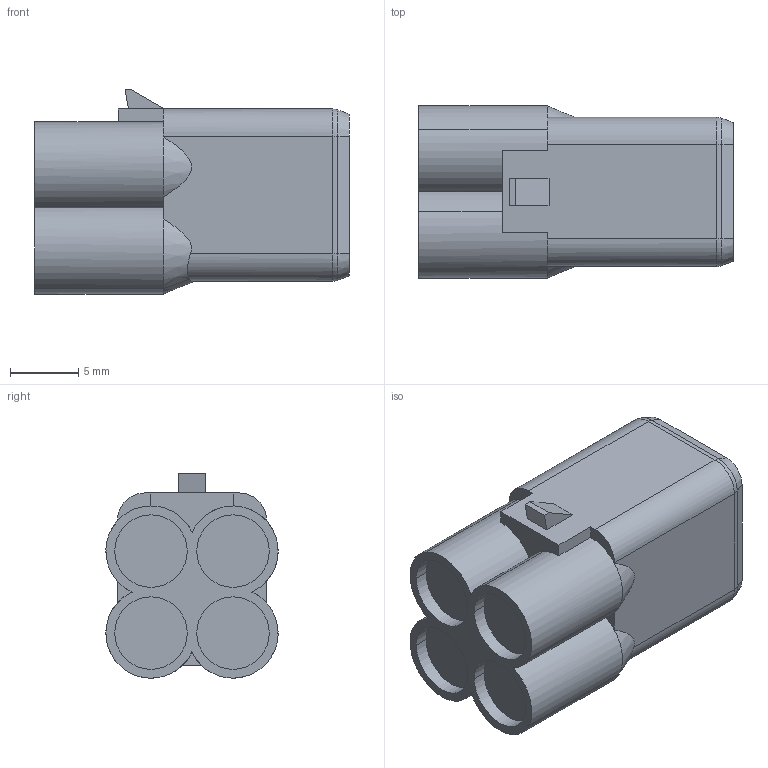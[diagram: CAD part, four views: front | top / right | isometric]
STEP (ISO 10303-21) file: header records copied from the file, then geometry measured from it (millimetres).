
FILE_DESCRIPTION(('CATIA V5 STEP Exchange','CAx-IF Rec.Pracs.--- Model Styling and Organization---1.2---2011-12-15'),'2;1');
FILE_NAME('N:\C-DAM_MyDesk\ENV\900093\6180-4181.stp','2015-01-26T23:44:39+00:00',('none'),('none'),'CATIA Version 5-6 Release 2012 SP4 HF74','CATIA V5 STEP AP214','none');
FILE_SCHEMA(('AUTOMOTIVE_DESIGN { 1 0 10303 214 1 1 1 1 }'));
Length unit declared in the file: millimetre
Products named in the file (1): 6180-4181
Bounding box: 23 x 12.6 x 14.95 mm (x, y, z)
Volume: 2921.1 mm3; surface area: 1633 mm2
Topology: 1 solids, 1 shells, 92 faces, 214 edges, 134 vertices
Faces by surface type: plane 52, cylinder 26, cone 10, torus 4
Entity records: 2505 total; most frequent: CARTESIAN_POINT 523, ORIENTED_EDGE 428, DIRECTION 334, EDGE_CURVE 214, VECTOR 136, LINE 136, VERTEX_POINT 134, AXIS2_PLACEMENT_3D 133
